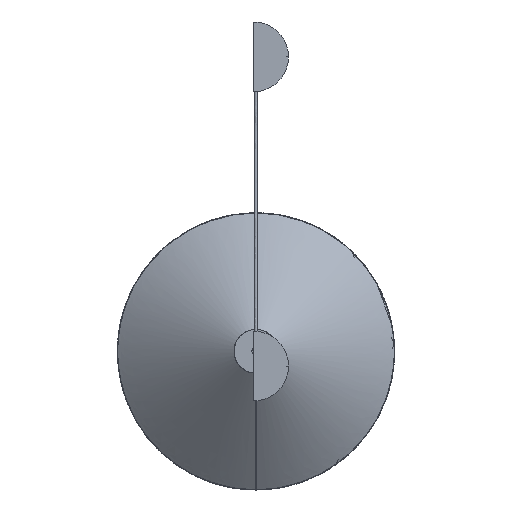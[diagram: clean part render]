
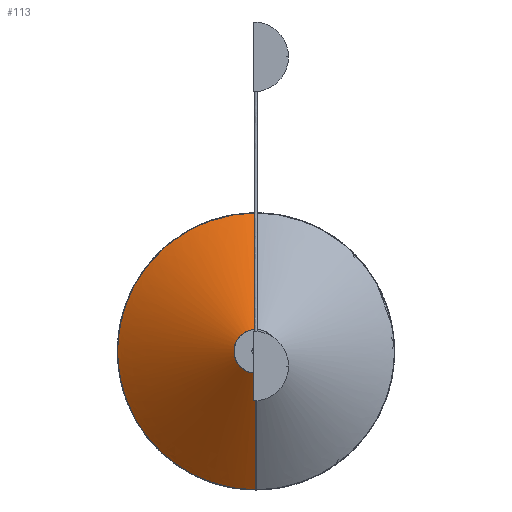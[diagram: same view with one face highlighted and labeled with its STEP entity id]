
A CAD part, top view. The second image highlights one B-rep face of the part: STEP entity #113.
In plain terms, the highlighted free-form (B-spline) face has degree [2, 2] with [5, 7] control points.
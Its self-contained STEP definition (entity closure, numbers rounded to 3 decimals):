
#113=ADVANCED_FACE('',(#156),#685,.T.);
#156=FACE_OUTER_BOUND('',#199,.T.);
#199=EDGE_LOOP('',(#254,#255,#256,#257));
#254=ORIENTED_EDGE('',*,*,#414,.T.);
#255=ORIENTED_EDGE('',*,*,#415,.T.);
#256=ORIENTED_EDGE('',*,*,#416,.T.);
#257=ORIENTED_EDGE('',*,*,#417,.T.);
#414=EDGE_CURVE('',#612,#613,#524,.T.);
#415=EDGE_CURVE('',#613,#614,#525,.T.);
#416=EDGE_CURVE('',#614,#615,#526,.T.);
#417=EDGE_CURVE('',#615,#612,#527,.T.);
#524=(
BOUNDED_CURVE()
B_SPLINE_CURVE(2,(#947,#948,#949,#950,#951),.UNSPECIFIED.,.F.,.F.)
B_SPLINE_CURVE_WITH_KNOTS((3,2,3),(0.,523.,1046.),
 .UNSPECIFIED.)
CURVE()
GEOMETRIC_REPRESENTATION_ITEM()
RATIONAL_B_SPLINE_CURVE((1.,0.707,1.,0.707,1.))
REPRESENTATION_ITEM('')
);
#525=(
BOUNDED_CURVE()
B_SPLINE_CURVE(2,(#952,#953,#954,#955,#956,#957,#958),.UNSPECIFIED.,.F.,
 .F.)
B_SPLINE_CURVE_WITH_KNOTS((3,2,2,3),(0.,352.581,352.817,
354.216),.UNSPECIFIED.)
CURVE()
GEOMETRIC_REPRESENTATION_ITEM()
RATIONAL_B_SPLINE_CURVE((1.,1.,1.,0.896,1.,1.,1.))
REPRESENTATION_ITEM('')
);
#526=(
BOUNDED_CURVE()
B_SPLINE_CURVE(2,(#959,#960,#961,#962,#963),.UNSPECIFIED.,.F.,.F.)
B_SPLINE_CURVE_WITH_KNOTS((3,2,3),(-1046.,-523.,0.),
 .UNSPECIFIED.)
CURVE()
GEOMETRIC_REPRESENTATION_ITEM()
RATIONAL_B_SPLINE_CURVE((1.,0.707,1.,0.707,1.))
REPRESENTATION_ITEM('')
);
#527=(
BOUNDED_CURVE()
B_SPLINE_CURVE(2,(#964,#965,#966,#967,#968,#969,#970),.UNSPECIFIED.,.F.,
 .F.)
B_SPLINE_CURVE_WITH_KNOTS((3,2,2,3),(-354.216,-352.817,
-352.581,0.),.UNSPECIFIED.)
CURVE()
GEOMETRIC_REPRESENTATION_ITEM()
RATIONAL_B_SPLINE_CURVE((1.,1.,1.,0.896,1.,1.,1.))
REPRESENTATION_ITEM('')
);
#612=VERTEX_POINT('',#943);
#613=VERTEX_POINT('',#944);
#614=VERTEX_POINT('',#945);
#615=VERTEX_POINT('',#946);
#685=(
BOUNDED_SURFACE()
B_SPLINE_SURFACE(2,2,((#908,#909,#910,#911,#912,#913,#914),(#915,#916,#917,
#918,#919,#920,#921),(#922,#923,#924,#925,#926,#927,#928),(#929,#930,#931,
#932,#933,#934,#935),(#936,#937,#938,#939,#940,#941,#942)),
 .UNSPECIFIED.,.F.,.F.,.F.)
B_SPLINE_SURFACE_WITH_KNOTS((3,2,3),(3,2,2,3),(0.,523.,1046.),
(0.,352.581,352.817,354.216),.UNSPECIFIED.)
GEOMETRIC_REPRESENTATION_ITEM()
RATIONAL_B_SPLINE_SURFACE(((1.,1.,1.,0.896,1.,1.,1.),(0.707,
0.707,0.707,0.633,0.707,
0.707,0.707),(1.,1.,1.,0.896,1.,1.,
1.),(0.707,0.707,0.707,0.633,
0.707,0.707,0.707),(1.,1.,1.,0.896,
1.,1.,1.)))
REPRESENTATION_ITEM('')
SURFACE()
);
#908=CARTESIAN_POINT('',(0.,-3.372,-578.976));
#909=CARTESIAN_POINT('',(0.,-113.332,-662.348));
#910=CARTESIAN_POINT('',(0.,-223.292,-745.721));
#911=CARTESIAN_POINT('',(0.,-223.372,-745.781));
#912=CARTESIAN_POINT('',(0.,-223.372,-745.881));
#913=CARTESIAN_POINT('',(0.,-223.372,-746.428));
#914=CARTESIAN_POINT('',(0.,-223.372,-746.976));
#915=CARTESIAN_POINT('',(-41.5,-3.372,-578.976));
#916=CARTESIAN_POINT('',(-151.46,-113.332,-662.348));
#917=CARTESIAN_POINT('',(-261.421,-223.292,-745.721));
#918=CARTESIAN_POINT('',(-261.5,-223.372,-745.781));
#919=CARTESIAN_POINT('',(-261.5,-223.372,-745.881));
#920=CARTESIAN_POINT('',(-261.5,-223.372,-746.428));
#921=CARTESIAN_POINT('',(-261.5,-223.372,-746.976));
#922=CARTESIAN_POINT('',(-41.5,38.128,-578.976));
#923=CARTESIAN_POINT('',(-151.46,38.128,-662.348));
#924=CARTESIAN_POINT('',(-261.421,38.128,-745.721));
#925=CARTESIAN_POINT('',(-261.5,38.128,-745.781));
#926=CARTESIAN_POINT('',(-261.5,38.128,-745.881));
#927=CARTESIAN_POINT('',(-261.5,38.128,-746.428));
#928=CARTESIAN_POINT('',(-261.5,38.128,-746.976));
#929=CARTESIAN_POINT('',(-41.5,79.628,-578.976));
#930=CARTESIAN_POINT('',(-151.46,189.589,-662.348));
#931=CARTESIAN_POINT('',(-261.421,299.549,-745.721));
#932=CARTESIAN_POINT('',(-261.5,299.628,-745.781));
#933=CARTESIAN_POINT('',(-261.5,299.628,-745.881));
#934=CARTESIAN_POINT('',(-261.5,299.628,-746.428));
#935=CARTESIAN_POINT('',(-261.5,299.628,-746.976));
#936=CARTESIAN_POINT('',(0.,79.628,-578.976));
#937=CARTESIAN_POINT('',(0.,189.589,-662.348));
#938=CARTESIAN_POINT('',(0.,299.549,-745.721));
#939=CARTESIAN_POINT('',(0.,299.628,-745.781));
#940=CARTESIAN_POINT('',(0.,299.628,-745.881));
#941=CARTESIAN_POINT('',(0.,299.628,-746.428));
#942=CARTESIAN_POINT('',(0.,299.628,-746.976));
#943=CARTESIAN_POINT('',(0.,-3.372,-578.976));
#944=CARTESIAN_POINT('',(0.,79.628,-578.976));
#945=CARTESIAN_POINT('',(0.,299.628,-746.976));
#946=CARTESIAN_POINT('',(0.,-223.372,-746.976));
#947=CARTESIAN_POINT('',(0.,-3.372,-578.976));
#948=CARTESIAN_POINT('',(-41.5,-3.372,-578.976));
#949=CARTESIAN_POINT('',(-41.5,38.128,-578.976));
#950=CARTESIAN_POINT('',(-41.5,79.628,-578.976));
#951=CARTESIAN_POINT('',(0.,79.628,-578.976));
#952=CARTESIAN_POINT('',(0.,79.628,-578.976));
#953=CARTESIAN_POINT('',(0.,189.589,-662.348));
#954=CARTESIAN_POINT('',(0.,299.549,-745.721));
#955=CARTESIAN_POINT('',(0.,299.628,-745.781));
#956=CARTESIAN_POINT('',(0.,299.628,-745.881));
#957=CARTESIAN_POINT('',(0.,299.628,-746.428));
#958=CARTESIAN_POINT('',(0.,299.628,-746.976));
#959=CARTESIAN_POINT('',(0.,299.628,-746.976));
#960=CARTESIAN_POINT('',(-261.5,299.628,-746.976));
#961=CARTESIAN_POINT('',(-261.5,38.128,-746.976));
#962=CARTESIAN_POINT('',(-261.5,-223.372,-746.976));
#963=CARTESIAN_POINT('',(0.,-223.372,-746.976));
#964=CARTESIAN_POINT('',(0.,-223.372,-746.976));
#965=CARTESIAN_POINT('',(0.,-223.372,-746.428));
#966=CARTESIAN_POINT('',(0.,-223.372,-745.881));
#967=CARTESIAN_POINT('',(0.,-223.372,-745.781));
#968=CARTESIAN_POINT('',(0.,-223.292,-745.721));
#969=CARTESIAN_POINT('',(0.,-113.332,-662.348));
#970=CARTESIAN_POINT('',(0.,-3.372,-578.976));
